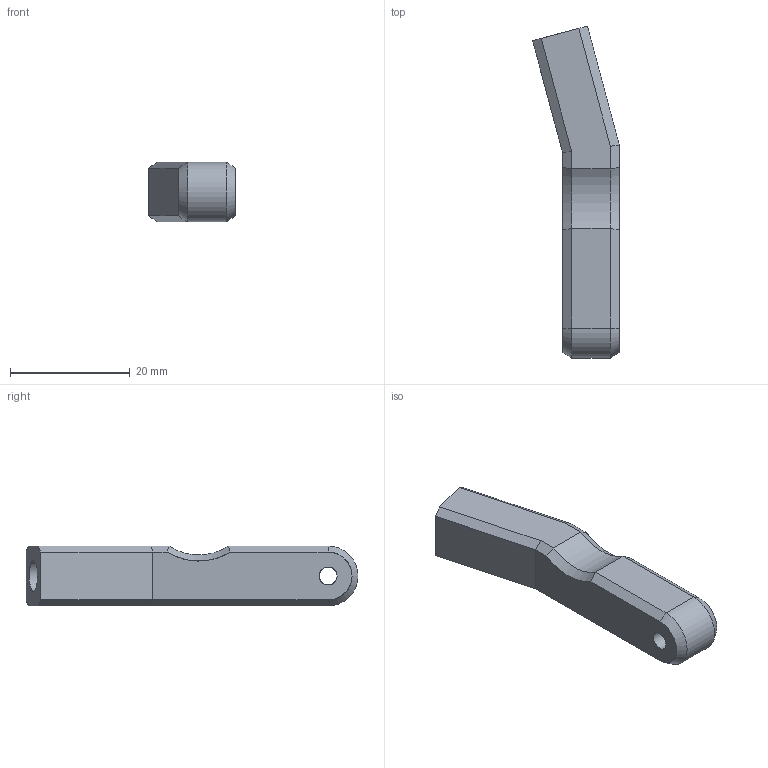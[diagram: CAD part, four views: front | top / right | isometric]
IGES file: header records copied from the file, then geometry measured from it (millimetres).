
Global section: file name: C:\Users\gehrichcr\Documents\1 Drive Backup\Practice\Inspire\V1.5\IGES\Boom Rod Linkage 15Deg L.igs; native system: NX V8.5; preprocessor: SIEMENS PLM Software NX 8.5; date: 20150603.121606; units: millimetre
Bounding box: 14.51 x 55.55 x 10 mm (x, y, z)
Surface area: 2413.8 mm2 (no closed solid volume)
Topology: 0 solids, 0 shells, 27 faces, 157 edges, 154 vertices
Faces by surface type: bspline 27
